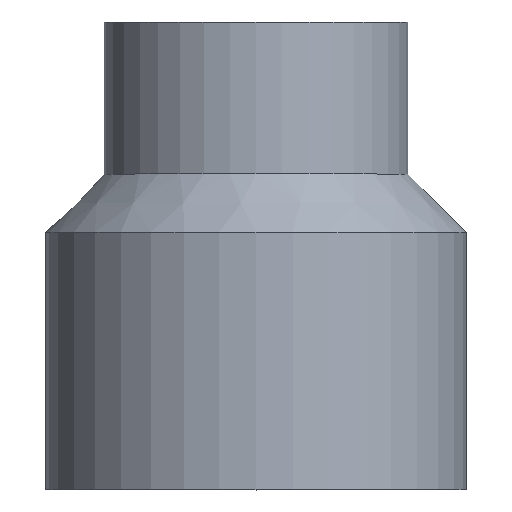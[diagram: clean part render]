
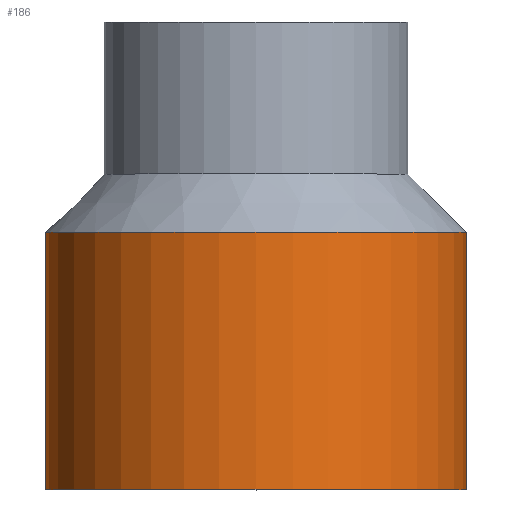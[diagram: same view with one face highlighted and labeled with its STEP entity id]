
A CAD part, top view. The second image highlights one B-rep face of the part: STEP entity #186.
In plain terms, the highlighted cylindrical face has radius 27 mm (diameter 54 mm), a full revolution.
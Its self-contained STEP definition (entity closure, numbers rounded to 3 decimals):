
#23=FACE_OUTER_BOUND('',#33,.T.);
#33=EDGE_LOOP('',(#127,#128,#129,#130,#131,#132));
#46=LINE('',#322,#53);
#53=VECTOR('',#254,27.);
#60=CIRCLE('',#217,27.);
#61=CIRCLE('',#218,27.);
#62=CIRCLE('',#219,27.);
#63=CIRCLE('',#220,27.);
#80=VERTEX_POINT('',#317);
#81=VERTEX_POINT('',#318);
#82=VERTEX_POINT('',#321);
#83=VERTEX_POINT('',#323);
#100=EDGE_CURVE('',#80,#81,#60,.T.);
#101=EDGE_CURVE('',#81,#80,#61,.T.);
#102=EDGE_CURVE('',#81,#82,#46,.T.);
#103=EDGE_CURVE('',#82,#83,#62,.T.);
#104=EDGE_CURVE('',#83,#82,#63,.T.);
#127=ORIENTED_EDGE('',*,*,#100,.F.);
#128=ORIENTED_EDGE('',*,*,#101,.F.);
#129=ORIENTED_EDGE('',*,*,#102,.T.);
#130=ORIENTED_EDGE('',*,*,#103,.T.);
#131=ORIENTED_EDGE('',*,*,#104,.T.);
#132=ORIENTED_EDGE('',*,*,#102,.F.);
#181=CYLINDRICAL_SURFACE('',#216,27.);
#186=ADVANCED_FACE('',(#23),#181,.T.);
#216=AXIS2_PLACEMENT_3D('',#316,#248,#249);
#217=AXIS2_PLACEMENT_3D('',#319,#250,#251);
#218=AXIS2_PLACEMENT_3D('',#320,#252,#253);
#219=AXIS2_PLACEMENT_3D('',#324,#255,#256);
#220=AXIS2_PLACEMENT_3D('',#325,#257,#258);
#248=DIRECTION('center_axis',(0.,1.,0.));
#249=DIRECTION('ref_axis',(-1.,0.,0.));
#250=DIRECTION('center_axis',(0.,1.,0.));
#251=DIRECTION('ref_axis',(-1.,0.,0.));
#252=DIRECTION('center_axis',(0.,1.,0.));
#253=DIRECTION('ref_axis',(-1.,0.,0.));
#254=DIRECTION('',(0.,-1.,0.));
#255=DIRECTION('center_axis',(0.,1.,0.));
#256=DIRECTION('ref_axis',(-1.,0.,0.));
#257=DIRECTION('center_axis',(0.,1.,0.));
#258=DIRECTION('ref_axis',(-1.,0.,0.));
#316=CARTESIAN_POINT('Origin',(0.,16.5,0.));
#317=CARTESIAN_POINT('',(-27.,33.,0.));
#318=CARTESIAN_POINT('',(27.,33.,0.));
#319=CARTESIAN_POINT('Origin',(0.,33.,0.));
#320=CARTESIAN_POINT('Origin',(0.,33.,0.));
#321=CARTESIAN_POINT('',(27.,0.,0.));
#322=CARTESIAN_POINT('',(27.,16.5,0.));
#323=CARTESIAN_POINT('',(-27.,0.,0.));
#324=CARTESIAN_POINT('Origin',(0.,0.,0.));
#325=CARTESIAN_POINT('Origin',(0.,0.,0.));
